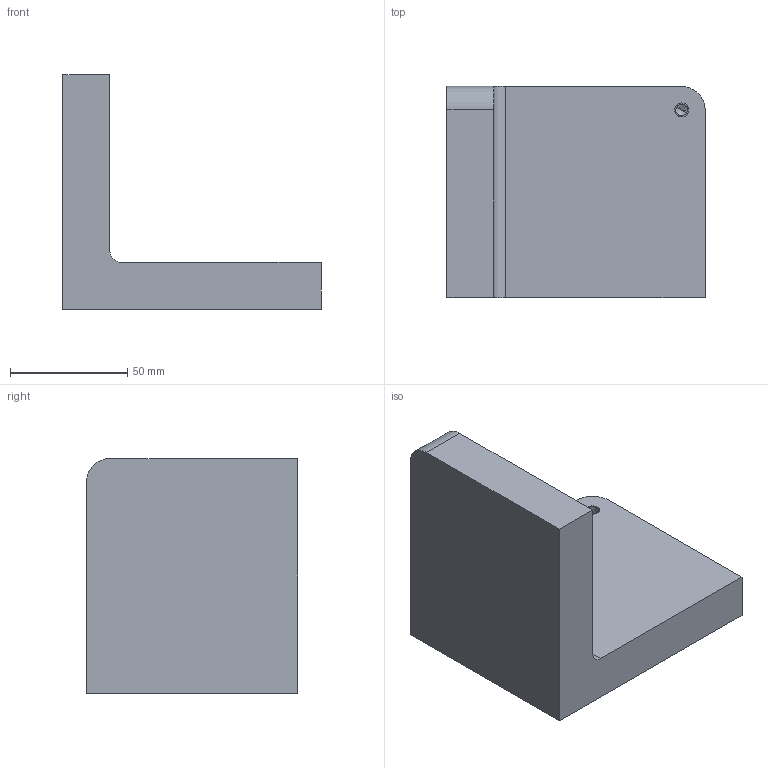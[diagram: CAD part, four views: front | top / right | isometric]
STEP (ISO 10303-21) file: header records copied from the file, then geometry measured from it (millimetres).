
FILE_DESCRIPTION(('CATIA V5 STEP Exchange'),'2;1');
FILE_NAME('C:\_Andres\UNIVERSIDAD\IQS\ASIGNATURAS\DAO\EXF\EXF-16172c\2inicio\Duch_Leira_Ej01_v10.stp','2017-03-05T15:11:05+00:00',('none'),('none'),'CATIA Version 5-6 Release 2014 SP1 HF18','CATIA V5 STEP AP203','none');
FILE_SCHEMA(('CONFIG_CONTROL_DESIGN'));
Length unit declared in the file: millimetre
Products named in the file (1): Duch_Leira_Ej01_v10
Bounding box: 110 x 90 x 100 mm (x, y, z)
Volume: 341311.6 mm3; surface area: 45436.4 mm2
Topology: 1 solids, 2 shells, 17 faces, 43 edges, 27 vertices
Faces by surface type: plane 8, cylinder 7, cone 2
Entity records: 513 total; most frequent: CARTESIAN_POINT 83, ORIENTED_EDGE 78, DIRECTION 69, EDGE_CURVE 41, AXIS2_PLACEMENT_3D 29, VECTOR 27, LINE 27, VERTEX_POINT 27
